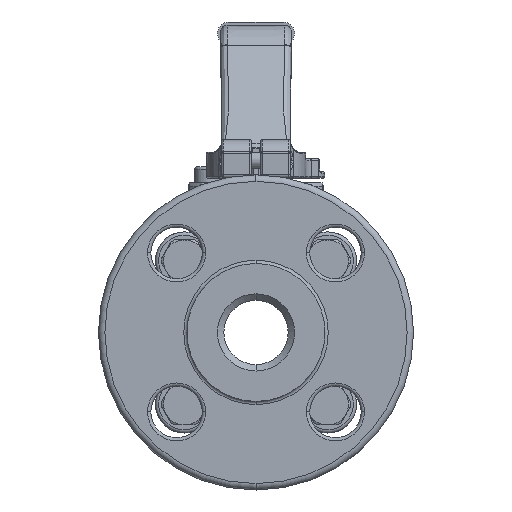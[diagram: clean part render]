
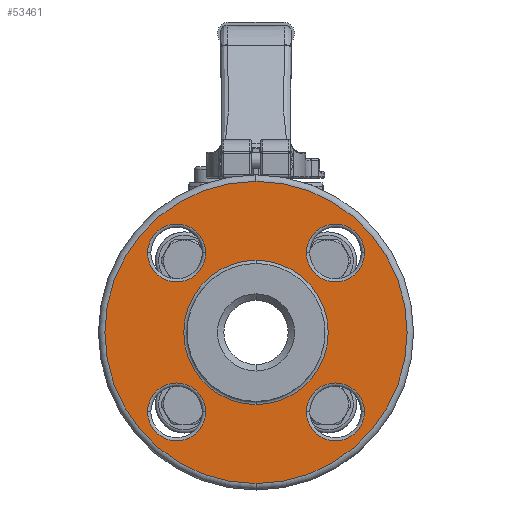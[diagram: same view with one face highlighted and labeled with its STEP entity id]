
A CAD part, left-side view. The second image highlights one B-rep face of the part: STEP entity #53461.
In plain terms, the highlighted planar face has unit normal (-1, 0, 0).
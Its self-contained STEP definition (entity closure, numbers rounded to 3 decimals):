
#55=CARTESIAN_POINT('',(-40.4,0.,0.));
#56=DIRECTION('',(-1.,0.,0.));
#57=DIRECTION('',(0.,0.,1.));
#58=AXIS2_PLACEMENT_3D('',#55,#56,#57);
#75=CARTESIAN_POINT('',(-40.4,0.,0.));
#76=DIRECTION('',(1.,0.,0.));
#77=DIRECTION('',(0.,0.,-1.));
#78=AXIS2_PLACEMENT_3D('',#75,#76,#77);
#98=CARTESIAN_POINT('',(-40.4,0.,0.));
#99=DIRECTION('',(1.,0.,0.));
#100=DIRECTION('',(0.,0.,1.));
#101=AXIS2_PLACEMENT_3D('',#98,#99,#100);
#43587=CARTESIAN_POINT('',(-40.4,24.713,24.713));
#43588=DIRECTION('',(1.,0.,0.));
#43589=DIRECTION('',(0.,1.,0.));
#43590=AXIS2_PLACEMENT_3D('',#43587,#43588,#43589);
#43602=CARTESIAN_POINT('',(-40.4,24.713,24.713));
#43603=DIRECTION('',(1.,0.,0.));
#43604=DIRECTION('',(0.,-1.,0.));
#43605=AXIS2_PLACEMENT_3D('',#43602,#43603,#43604);
#43655=CARTESIAN_POINT('',(-40.4,-24.713,24.713));
#43656=DIRECTION('',(1.,0.,0.));
#43657=DIRECTION('',(0.,-1.,0.));
#43658=AXIS2_PLACEMENT_3D('',#43655,#43656,#43657);
#43670=CARTESIAN_POINT('',(-40.4,-24.713,24.713));
#43671=DIRECTION('',(1.,0.,0.));
#43672=DIRECTION('',(0.,1.,0.));
#43673=AXIS2_PLACEMENT_3D('',#43670,#43671,#43672);
#43723=CARTESIAN_POINT('',(-40.4,-24.713,-24.713));
#43724=DIRECTION('',(1.,0.,0.));
#43725=DIRECTION('',(0.,1.,0.));
#43726=AXIS2_PLACEMENT_3D('',#43723,#43724,#43725);
#43738=CARTESIAN_POINT('',(-40.4,-24.713,-24.713));
#43739=DIRECTION('',(1.,0.,0.));
#43740=DIRECTION('',(0.,-1.,0.));
#43741=AXIS2_PLACEMENT_3D('',#43738,#43739,#43740);
#43791=CARTESIAN_POINT('',(-40.4,24.713,-24.713));
#43792=DIRECTION('',(1.,0.,0.));
#43793=DIRECTION('',(0.,-1.,0.));
#43794=AXIS2_PLACEMENT_3D('',#43791,#43792,#43793);
#43806=CARTESIAN_POINT('',(-40.4,24.713,-24.713));
#43807=DIRECTION('',(1.,0.,0.));
#43808=DIRECTION('',(0.,1.,0.));
#43809=AXIS2_PLACEMENT_3D('',#43806,#43807,#43808);
#43825=CARTESIAN_POINT('',(-40.4,0.,0.));
#43826=DIRECTION('',(-1.,0.,0.));
#43827=DIRECTION('',(0.,0.,-1.));
#43828=AXIS2_PLACEMENT_3D('',#43825,#43826,#43827);
#43856=CARTESIAN_POINT('',(-40.4,0.,-47.));
#43857=CARTESIAN_POINT('',(-40.4,0.,47.));
#43858=VERTEX_POINT('',#43856);
#43859=VERTEX_POINT('',#43857);
#44752=CARTESIAN_POINT('',(-40.4,33.713,24.713));
#44753=CARTESIAN_POINT('',(-40.4,15.713,24.713));
#44754=VERTEX_POINT('',#44752);
#44755=VERTEX_POINT('',#44753);
#44768=CARTESIAN_POINT('',(-40.4,-33.713,24.713));
#44769=CARTESIAN_POINT('',(-40.4,-15.713,24.713));
#44770=VERTEX_POINT('',#44768);
#44771=VERTEX_POINT('',#44769);
#44784=CARTESIAN_POINT('',(-40.4,-15.713,-24.713));
#44785=CARTESIAN_POINT('',(-40.4,-33.713,-24.713));
#44786=VERTEX_POINT('',#44784);
#44787=VERTEX_POINT('',#44785);
#44800=CARTESIAN_POINT('',(-40.4,33.713,-24.713));
#44801=CARTESIAN_POINT('',(-40.4,15.713,-24.713));
#44802=VERTEX_POINT('',#44800);
#44803=VERTEX_POINT('',#44801);
#45416=CARTESIAN_POINT('',(-40.4,0.,-22.45));
#45417=CARTESIAN_POINT('',(-40.4,0.,22.45));
#45418=VERTEX_POINT('',#45416);
#45419=VERTEX_POINT('',#45417);
#53421=CARTESIAN_POINT('',(-40.4,0.,0.));
#53422=DIRECTION('',(-1.,0.,0.));
#53423=DIRECTION('',(0.,0.,1.));
#53424=AXIS2_PLACEMENT_3D('',#53421,#53422,#53423);
#53425=PLANE('',#53424);
#53427=ORIENTED_EDGE('',*,*,#53426,.T.);
#53429=ORIENTED_EDGE('',*,*,#53428,.T.);
#53430=EDGE_LOOP('',(#53427,#53429));
#53431=FACE_OUTER_BOUND('',#53430,.F.);
#53433=ORIENTED_EDGE('',*,*,#53432,.T.);
#53434=ORIENTED_EDGE('',*,*,#53411,.T.);
#53435=EDGE_LOOP('',(#53433,#53434));
#53436=FACE_BOUND('',#53435,.F.);
#53438=ORIENTED_EDGE('',*,*,#53437,.F.);
#53440=ORIENTED_EDGE('',*,*,#53439,.F.);
#53441=EDGE_LOOP('',(#53438,#53440));
#53442=FACE_BOUND('',#53441,.F.);
#53444=ORIENTED_EDGE('',*,*,#53443,.F.);
#53446=ORIENTED_EDGE('',*,*,#53445,.F.);
#53447=EDGE_LOOP('',(#53444,#53446));
#53448=FACE_BOUND('',#53447,.F.);
#53450=ORIENTED_EDGE('',*,*,#53449,.F.);
#53452=ORIENTED_EDGE('',*,*,#53451,.F.);
#53453=EDGE_LOOP('',(#53450,#53452));
#53454=FACE_BOUND('',#53453,.F.);
#53456=ORIENTED_EDGE('',*,*,#53455,.F.);
#53458=ORIENTED_EDGE('',*,*,#53457,.F.);
#53459=EDGE_LOOP('',(#53456,#53458));
#53460=FACE_BOUND('',#53459,.F.);
#53461=ADVANCED_FACE('',(#53431,#53436,#53442,#53448,#53454,#53460),#53425,.T.);
#59=CIRCLE('',#58,22.45);
#79=CIRCLE('',#78,47.);
#102=CIRCLE('',#101,47.);
#43591=CIRCLE('',#43590,9.);
#43606=CIRCLE('',#43605,9.);
#43659=CIRCLE('',#43658,9.);
#43674=CIRCLE('',#43673,9.);
#43727=CIRCLE('',#43726,9.);
#43742=CIRCLE('',#43741,9.);
#43795=CIRCLE('',#43794,9.);
#43810=CIRCLE('',#43809,9.);
#43829=CIRCLE('',#43828,22.45);
#53411=EDGE_CURVE('',#45419,#45418,#59,.T.);
#53426=EDGE_CURVE('',#43858,#43859,#79,.T.);
#53428=EDGE_CURVE('',#43859,#43858,#102,.T.);
#53432=EDGE_CURVE('',#45418,#45419,#43829,.T.);
#53437=EDGE_CURVE('',#44754,#44755,#43591,.T.);
#53439=EDGE_CURVE('',#44755,#44754,#43606,.T.);
#53443=EDGE_CURVE('',#44770,#44771,#43659,.T.);
#53445=EDGE_CURVE('',#44771,#44770,#43674,.T.);
#53449=EDGE_CURVE('',#44786,#44787,#43727,.T.);
#53451=EDGE_CURVE('',#44787,#44786,#43742,.T.);
#53455=EDGE_CURVE('',#44802,#44803,#43810,.T.);
#53457=EDGE_CURVE('',#44803,#44802,#43795,.T.);
